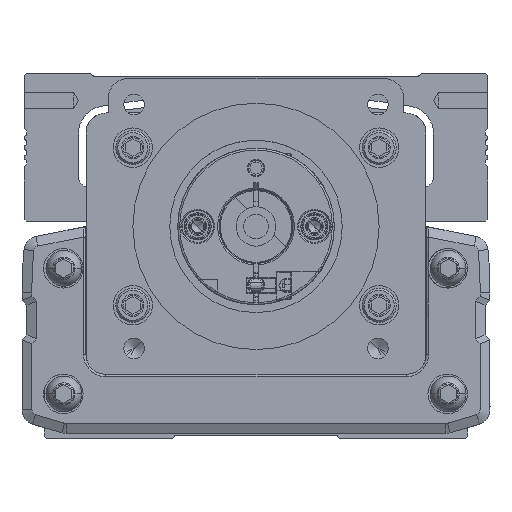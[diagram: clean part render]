
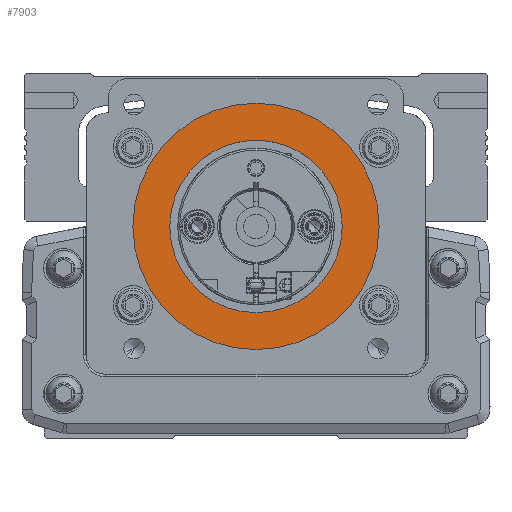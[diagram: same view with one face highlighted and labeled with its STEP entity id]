
A CAD part, front view. The second image highlights one B-rep face of the part: STEP entity #7903.
In plain terms, the highlighted planar face has unit normal (0, -1, 0).
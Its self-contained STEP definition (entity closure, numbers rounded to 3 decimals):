
#7903=ADVANCED_FACE('',(#16887,#16888),#16889,.T.);
#16887=FACE_BOUND('',#28584,.T.);
#16888=FACE_OUTER_BOUND('',#28585,.T.);
#16889=PLANE('',#28586);
#28584=EDGE_LOOP('',(#51947,#51948));
#28585=EDGE_LOOP('',(#51949,#51950));
#28586=AXIS2_PLACEMENT_3D('',#51951,#51952,#51953);
#51947=ORIENTED_EDGE('',*,*,#69837,.T.);
#51948=ORIENTED_EDGE('',*,*,#69838,.T.);
#51949=ORIENTED_EDGE('',*,*,#69839,.F.);
#51950=ORIENTED_EDGE('',*,*,#69825,.F.);
#51951=CARTESIAN_POINT('',(0.,-410.778,0.));
#51952=DIRECTION('',(0.,-1.0,0.));
#51953=DIRECTION('',(1.0,0.,0.));
#69825=EDGE_CURVE('',#85923,#85921,#85925,.T.);
#69837=EDGE_CURVE('',#85940,#85941,#85942,.T.);
#69838=EDGE_CURVE('',#85941,#85940,#85943,.T.);
#69839=EDGE_CURVE('',#85921,#85923,#85944,.T.);
#85921=VERTEX_POINT('',#108962);
#85923=VERTEX_POINT('',#108965);
#85925=CIRCLE('',#108968,25.0);
#85940=VERTEX_POINT('',#108987);
#85941=VERTEX_POINT('',#108988);
#85942=CIRCLE('',#108989,17.5);
#85943=CIRCLE('',#108990,17.5);
#85944=CIRCLE('',#108991,25.0);
#108962=CARTESIAN_POINT('',(25.,-410.778,0.));
#108965=CARTESIAN_POINT('',(-25.,-410.778,0.));
#108968=AXIS2_PLACEMENT_3D('',#123680,#123681,#123682);
#108987=CARTESIAN_POINT('',(17.5,-410.778,0.));
#108988=CARTESIAN_POINT('',(-17.5,-410.778,0.));
#108989=AXIS2_PLACEMENT_3D('',#123693,#123694,#123695);
#108990=AXIS2_PLACEMENT_3D('',#123696,#123697,#123698);
#108991=AXIS2_PLACEMENT_3D('',#123699,#123700,#123701);
#123680=CARTESIAN_POINT('',(0.,-410.778,0.));
#123681=DIRECTION('',(0.,1.0,0.));
#123682=DIRECTION('',(1.0,0.,0.));
#123693=CARTESIAN_POINT('',(0.,-410.778,0.));
#123694=DIRECTION('',(0.,1.0,0.));
#123695=DIRECTION('',(-1.0,0.,0.));
#123696=CARTESIAN_POINT('',(0.,-410.778,0.));
#123697=DIRECTION('',(0.,1.0,0.));
#123698=DIRECTION('',(-1.0,0.,0.));
#123699=CARTESIAN_POINT('',(0.,-410.778,0.));
#123700=DIRECTION('',(0.,1.0,0.));
#123701=DIRECTION('',(1.0,0.,0.));
